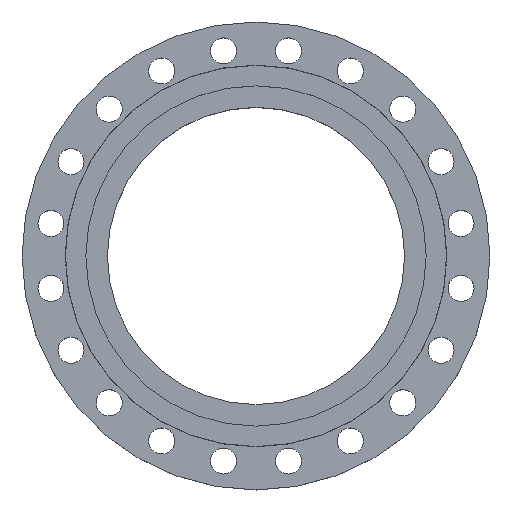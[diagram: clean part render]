
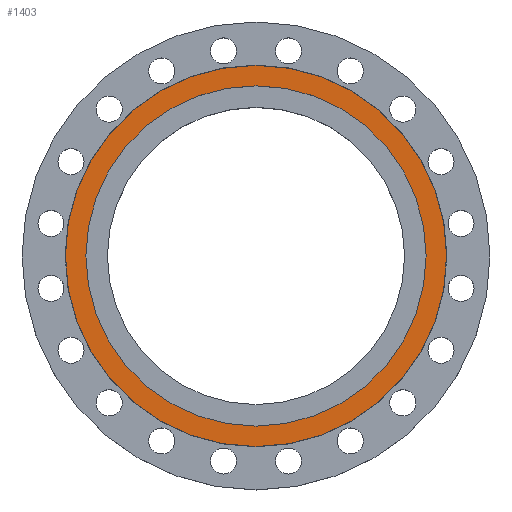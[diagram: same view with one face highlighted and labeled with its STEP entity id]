
A CAD part, top view. The second image highlights one B-rep face of the part: STEP entity #1403.
In plain terms, the highlighted planar face has unit normal (0, 0, 1).
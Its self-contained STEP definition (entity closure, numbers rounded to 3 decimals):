
#8 = EDGE_CURVE ( 'NONE', #2064, #916, #1852, .T. ) ;
#84 = DIRECTION ( 'NONE',  ( 0., 0., -1. ) ) ;
#121 = DIRECTION ( 'NONE',  ( 0., 0., -1. ) ) ;
#186 = ORIENTED_EDGE ( 'NONE', *, *, #1146, .F. ) ;
#326 = EDGE_LOOP ( 'NONE', ( #186, #1601 ) ) ;
#334 = DIRECTION ( 'NONE',  ( 0., 0., -1. ) ) ;
#356 = DIRECTION ( 'NONE',  ( 1., 0., 0. ) ) ;
#367 = ORIENTED_EDGE ( 'NONE', *, *, #1065, .T. ) ;
#425 = AXIS2_PLACEMENT_3D ( 'NONE', #1860, #334, #1014 ) ;
#426 = CIRCLE ( 'NONE', #425, 274.5 ) ;
#520 = PLANE ( 'NONE',  #1564 ) ;
#601 = DIRECTION ( 'NONE',  ( -1., 0., 0. ) ) ;
#670 = AXIS2_PLACEMENT_3D ( 'NONE', #1452, #2061, #601 ) ;
#725 = CIRCLE ( 'NONE', #670, 274.5 ) ;
#747 = DIRECTION ( 'NONE',  ( -1., 0., 0. ) ) ;
#770 = CARTESIAN_POINT ( 'NONE',  ( 307.5, 0., 0. ) ) ;
#781 = DIRECTION ( 'NONE',  ( -1., 0., 0. ) ) ;
#788 = AXIS2_PLACEMENT_3D ( 'NONE', #1587, #84, #747 ) ;
#807 = CIRCLE ( 'NONE', #788, 307.5 ) ;
#899 = EDGE_LOOP ( 'NONE', ( #1350, #367 ) ) ;
#916 = VERTEX_POINT ( 'NONE', #1107 ) ;
#1014 = DIRECTION ( 'NONE',  ( -1., 0., 0. ) ) ;
#1031 = VERTEX_POINT ( 'NONE', #1339 ) ;
#1065 = EDGE_CURVE ( 'NONE', #1085, #1031, #426, .T. ) ;
#1085 = VERTEX_POINT ( 'NONE', #1869 ) ;
#1107 = CARTESIAN_POINT ( 'NONE',  ( -307.5, 0., 0. ) ) ;
#1146 = EDGE_CURVE ( 'NONE', #916, #2064, #807, .T. ) ;
#1174 = EDGE_CURVE ( 'NONE', #1031, #1085, #725, .T. ) ;
#1201 = CARTESIAN_POINT ( 'NONE',  ( 0., 0., 0. ) ) ;
#1339 = CARTESIAN_POINT ( 'NONE',  ( -274.5, 0., 0. ) ) ;
#1350 = ORIENTED_EDGE ( 'NONE', *, *, #1174, .T. ) ;
#1370 = FACE_OUTER_BOUND ( 'NONE', #326, .T. ) ;
#1403 = ADVANCED_FACE ( 'NONE', ( #1370, #2000 ), #520, .T. ) ;
#1452 = CARTESIAN_POINT ( 'NONE',  ( 0., 0., 0. ) ) ;
#1564 = AXIS2_PLACEMENT_3D ( 'NONE', #1201, #1875, #356 ) ;
#1587 = CARTESIAN_POINT ( 'NONE',  ( 0., 0., 0. ) ) ;
#1601 = ORIENTED_EDGE ( 'NONE', *, *, #8, .F. ) ;
#1633 = CARTESIAN_POINT ( 'NONE',  ( 0., 0., 0. ) ) ;
#1850 = AXIS2_PLACEMENT_3D ( 'NONE', #1633, #121, #781 ) ;
#1852 = CIRCLE ( 'NONE', #1850, 307.5 ) ;
#1860 = CARTESIAN_POINT ( 'NONE',  ( 0., 0., 0. ) ) ;
#1869 = CARTESIAN_POINT ( 'NONE',  ( 274.5, 0., 0. ) ) ;
#1875 = DIRECTION ( 'NONE',  ( 0., 0., 1. ) ) ;
#2000 = FACE_BOUND ( 'NONE', #899, .T. ) ;
#2061 = DIRECTION ( 'NONE',  ( 0., 0., -1. ) ) ;
#2064 = VERTEX_POINT ( 'NONE', #770 ) ;
